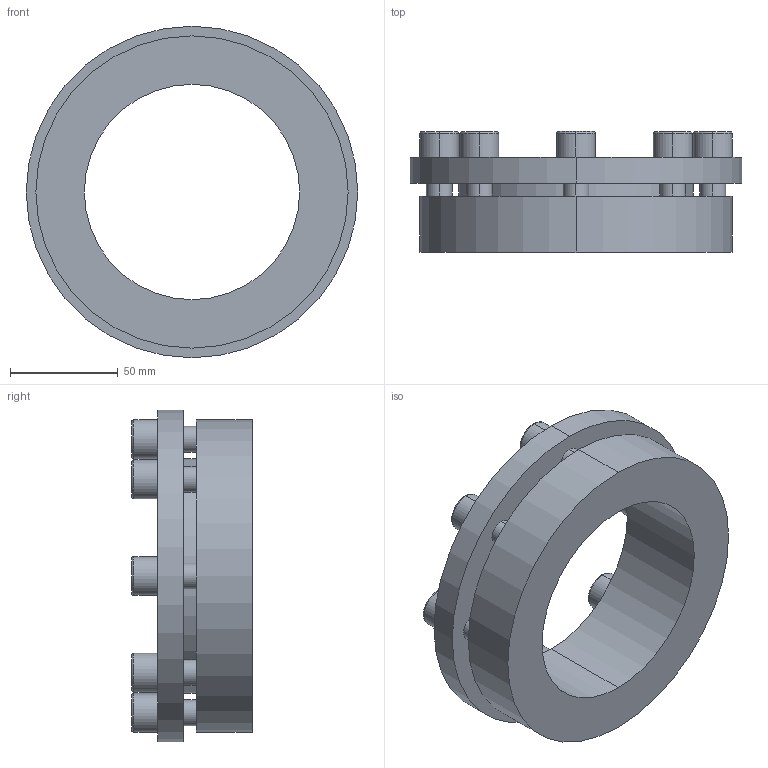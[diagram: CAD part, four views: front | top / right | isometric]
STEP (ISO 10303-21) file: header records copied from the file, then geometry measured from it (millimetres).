
FILE_DESCRIPTION (( 'STEP AP203' ), '1' );
FILE_NAME ('PL-H6 100-145.STEP', '2021-10-23T01:38:32', ( '' ), ( '' ), 'SwSTEP 2.0', 'SolidWorks 2018', '' );
FILE_SCHEMA (( 'CONFIG_CONTROL_DESIGN' ));
Length unit declared in the file: millimetre
Products named in the file (1): PL-H6 100-145
Bounding box: 154 x 56 x 154 mm (x, y, z)
Volume: 388874.7 mm3; surface area: 76329.2 mm2
Topology: 1 solids, 1 shells, 124 faces, 296 edges, 192 vertices
Faces by surface type: plane 68, cylinder 40, torus 16
Entity records: 3717 total; most frequent: DIRECTION 658, CARTESIAN_POINT 613, ORIENTED_EDGE 592, EDGE_CURVE 296, AXIS2_PLACEMENT_3D 237, VERTEX_POINT 192, VECTOR 184, LINE 184
